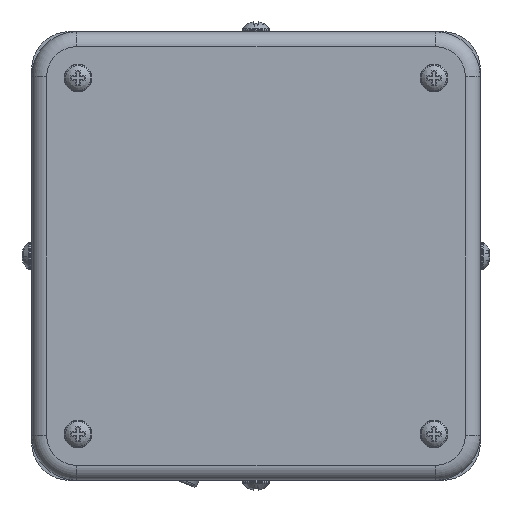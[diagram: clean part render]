
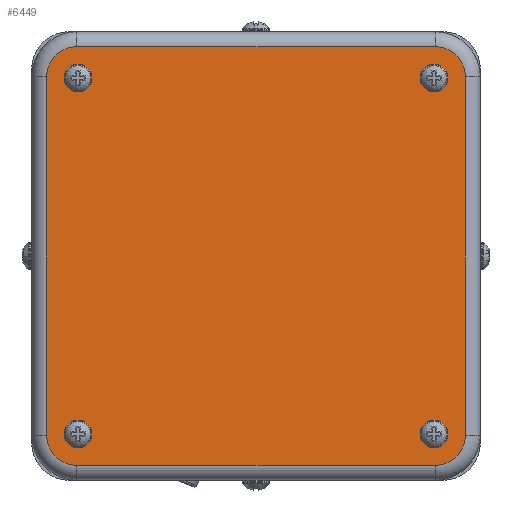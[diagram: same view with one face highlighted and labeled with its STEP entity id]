
A CAD part, left-side view. The second image highlights one B-rep face of the part: STEP entity #6449.
In plain terms, the highlighted planar face has unit normal (-1, 0, 0).
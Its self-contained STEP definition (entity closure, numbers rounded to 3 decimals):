
#2119=CARTESIAN_POINT('',(-60.,35.709,32.909));
#2120=VERTEX_POINT('',#2119);
#2121=CARTESIAN_POINT('',(-60.,35.709,35.709));
#2122=DIRECTION('',(1.0,0.0,0.0));
#2123=DIRECTION('',(0.0,0.0,1.0));
#2124=AXIS2_PLACEMENT_3D('',#2121,#2122,#2123);
#2125=CIRCLE('',#2124,2.8);
#2126=EDGE_CURVE('',#2120,#2120,#2125,.T.);
#2718=CARTESIAN_POINT('',(-60.,35.709,-38.509));
#2719=VERTEX_POINT('',#2718);
#2720=CARTESIAN_POINT('',(-60.,35.709,-35.709));
#2721=DIRECTION('',(1.0,0.0,0.0));
#2722=DIRECTION('',(0.0,0.0,1.0));
#2723=AXIS2_PLACEMENT_3D('',#2720,#2721,#2722);
#2724=CIRCLE('',#2723,2.8);
#2725=EDGE_CURVE('',#2719,#2719,#2724,.T.);
#3315=CARTESIAN_POINT('',(-60.,-35.709,-38.509));
#3316=VERTEX_POINT('',#3315);
#3317=CARTESIAN_POINT('',(-60.,-35.709,-35.709));
#3318=DIRECTION('',(1.0,0.0,0.0));
#3319=DIRECTION('',(0.0,0.0,1.0));
#3320=AXIS2_PLACEMENT_3D('',#3317,#3318,#3319);
#3321=CIRCLE('',#3320,2.8);
#3322=EDGE_CURVE('',#3316,#3316,#3321,.T.);
#6354=CARTESIAN_POINT('',(-60.,-7.027,-7.027));
#6355=DIRECTION('',(1.0,0.0,0.0));
#6356=DIRECTION('',(0.0,0.0,-1.0));
#6357=AXIS2_PLACEMENT_3D('',#6354,#6355,#6356);
#6358=PLANE('',#6357);
#6359=CARTESIAN_POINT('',(-60.,-42.,-36.));
#6360=VERTEX_POINT('',#6359);
#6361=CARTESIAN_POINT('',(-60.,-36.,-42.));
#6362=VERTEX_POINT('',#6361);
#6363=CARTESIAN_POINT('',(-60.,-36.,-36.));
#6364=DIRECTION('',(1.0,0.0,0.0));
#6365=DIRECTION('',(0.0,-0.707,-0.707));
#6366=AXIS2_PLACEMENT_3D('',#6363,#6364,#6365);
#6367=CIRCLE('',#6366,6.);
#6368=EDGE_CURVE('',#6360,#6362,#6367,.T.);
#6369=ORIENTED_EDGE('',*,*,#6368,.F.);
#6370=CARTESIAN_POINT('',(-60.,-42.0,36.));
#6371=VERTEX_POINT('',#6370);
#6372=CARTESIAN_POINT('',(-60.,-42.0,36.));
#6373=DIRECTION('',(0.0,0.0,-1.0));
#6374=VECTOR('',#6373,72.);
#6375=LINE('',#6372,#6374);
#6376=EDGE_CURVE('',#6371,#6360,#6375,.T.);
#6377=ORIENTED_EDGE('',*,*,#6376,.F.);
#6378=CARTESIAN_POINT('',(-60.,-36.0,42.));
#6379=VERTEX_POINT('',#6378);
#6380=CARTESIAN_POINT('',(-60.,-36.,36.));
#6381=DIRECTION('',(1.0,0.0,0.0));
#6382=DIRECTION('',(0.0,-0.707,0.707));
#6383=AXIS2_PLACEMENT_3D('',#6380,#6381,#6382);
#6384=CIRCLE('',#6383,6.);
#6385=EDGE_CURVE('',#6379,#6371,#6384,.T.);
#6386=ORIENTED_EDGE('',*,*,#6385,.F.);
#6387=CARTESIAN_POINT('',(-60.,36.0,42.));
#6388=VERTEX_POINT('',#6387);
#6389=CARTESIAN_POINT('',(-60.,36.0,42.));
#6390=DIRECTION('',(0.0,-1.0,0.0));
#6391=VECTOR('',#6390,72.0);
#6392=LINE('',#6389,#6391);
#6393=EDGE_CURVE('',#6388,#6379,#6392,.T.);
#6394=ORIENTED_EDGE('',*,*,#6393,.F.);
#6395=CARTESIAN_POINT('',(-60.,42.0,36.));
#6396=VERTEX_POINT('',#6395);
#6397=CARTESIAN_POINT('',(-60.,36.,36.));
#6398=DIRECTION('',(1.0,0.0,0.0));
#6399=DIRECTION('',(0.0,0.707,0.707));
#6400=AXIS2_PLACEMENT_3D('',#6397,#6398,#6399);
#6401=CIRCLE('',#6400,6.);
#6402=EDGE_CURVE('',#6396,#6388,#6401,.T.);
#6403=ORIENTED_EDGE('',*,*,#6402,.F.);
#6404=CARTESIAN_POINT('',(-60.,42.,-36.));
#6405=VERTEX_POINT('',#6404);
#6406=CARTESIAN_POINT('',(-60.,42.,-36.));
#6407=DIRECTION('',(0.0,0.0,1.0));
#6408=VECTOR('',#6407,72.);
#6409=LINE('',#6406,#6408);
#6410=EDGE_CURVE('',#6405,#6396,#6409,.T.);
#6411=ORIENTED_EDGE('',*,*,#6410,.F.);
#6412=CARTESIAN_POINT('',(-60.,36.,-42.));
#6413=VERTEX_POINT('',#6412);
#6414=CARTESIAN_POINT('',(-60.,36.,-36.));
#6415=DIRECTION('',(1.0,0.0,0.0));
#6416=DIRECTION('',(0.0,0.707,-0.707));
#6417=AXIS2_PLACEMENT_3D('',#6414,#6415,#6416);
#6418=CIRCLE('',#6417,6.);
#6419=EDGE_CURVE('',#6413,#6405,#6418,.T.);
#6420=ORIENTED_EDGE('',*,*,#6419,.F.);
#6421=CARTESIAN_POINT('',(-60.,-36.,-42.));
#6422=DIRECTION('',(0.0,1.0,0.0));
#6423=VECTOR('',#6422,72.);
#6424=LINE('',#6421,#6423);
#6425=EDGE_CURVE('',#6362,#6413,#6424,.T.);
#6426=ORIENTED_EDGE('',*,*,#6425,.F.);
#6427=EDGE_LOOP('',(#6369,#6377,#6386,#6394,#6403,#6411,#6420,#6426));
#6428=FACE_OUTER_BOUND('',#6427,.T.);
#6429=ORIENTED_EDGE('',*,*,#2126,.T.);
#6430=EDGE_LOOP('',(#6429));
#6431=FACE_BOUND('',#6430,.T.);
#6432=CARTESIAN_POINT('',(-60.,-35.709,32.909));
#6433=VERTEX_POINT('',#6432);
#6434=CARTESIAN_POINT('',(-60.,-35.709,35.709));
#6435=DIRECTION('',(1.0,0.0,0.0));
#6436=DIRECTION('',(0.0,0.0,1.0));
#6437=AXIS2_PLACEMENT_3D('',#6434,#6435,#6436);
#6438=CIRCLE('',#6437,2.8);
#6439=EDGE_CURVE('',#6433,#6433,#6438,.T.);
#6440=ORIENTED_EDGE('',*,*,#6439,.T.);
#6441=EDGE_LOOP('',(#6440));
#6442=FACE_BOUND('',#6441,.T.);
#6443=ORIENTED_EDGE('',*,*,#2725,.T.);
#6444=EDGE_LOOP('',(#6443));
#6445=FACE_BOUND('',#6444,.T.);
#6446=ORIENTED_EDGE('',*,*,#3322,.T.);
#6447=EDGE_LOOP('',(#6446));
#6448=FACE_BOUND('',#6447,.T.);
#6449=ADVANCED_FACE('',(#6428,#6431,#6442,#6445,#6448),#6358,.F.);
